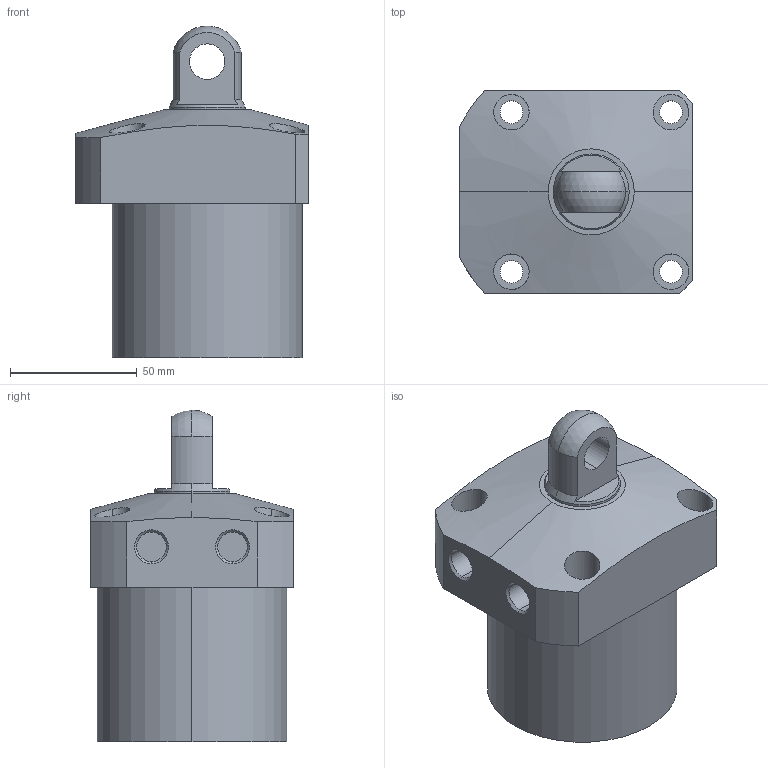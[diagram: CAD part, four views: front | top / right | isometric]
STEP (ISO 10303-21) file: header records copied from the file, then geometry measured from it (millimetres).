
FILE_DESCRIPTION (( 'STEP AP203' ), '1' );
FILE_NAME ('CLL-075CP-45.STEP', '2019-12-20T08:28:26', ( '' ), ( '' ), 'SwSTEP 2.0', 'SolidWorks 2015', '' );
FILE_SCHEMA (( 'CONFIG_CONTROL_DESIGN' ));
Length unit declared in the file: millimetre
Products named in the file (1): CLL-075CP-45
Bounding box: 92 x 80 x 131 mm (x, y, z)
Volume: 498959.5 mm3; surface area: 45642.4 mm2
Topology: 1 solids, 1 shells, 66 faces, 155 edges, 101 vertices
Faces by surface type: cylinder 35, plane 21, cone 8, sphere 2
Entity records: 2408 total; most frequent: CARTESIAN_POINT 755, DIRECTION 345, ORIENTED_EDGE 310, EDGE_CURVE 155, AXIS2_PLACEMENT_3D 143, VERTEX_POINT 101, EDGE_LOOP 86, CIRCLE 76
